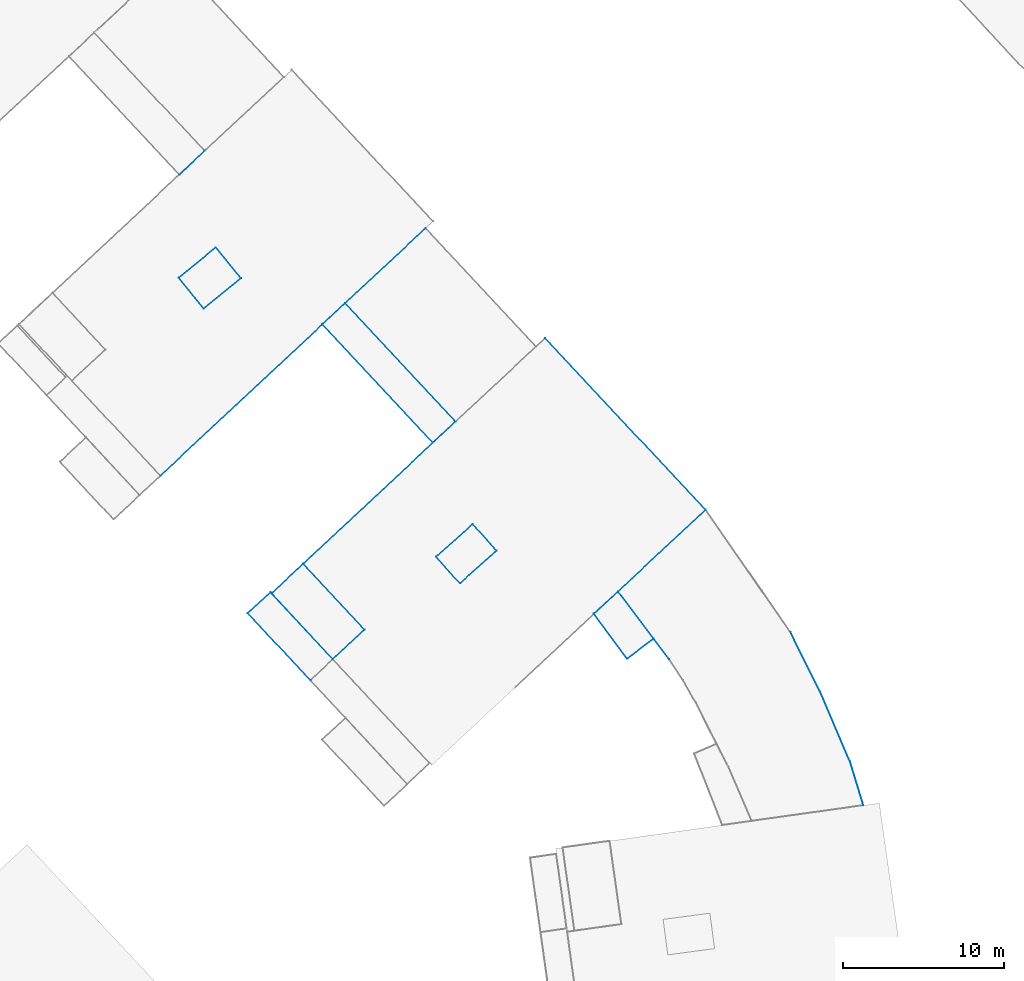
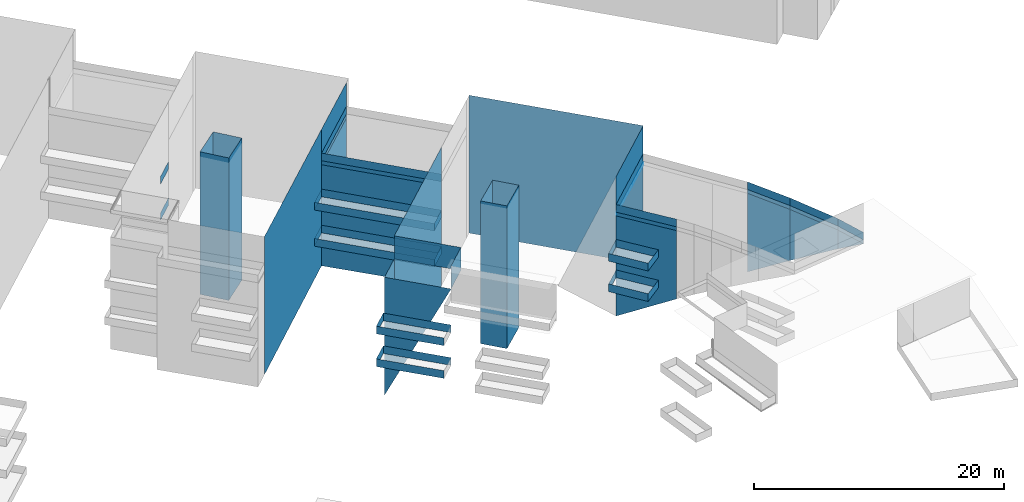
# Not in any storey, part 19 of 136: 90 walls.
"""IFC2X3 building model written with IfcOpenShell, lengths in metres."""

from ifc_helpers import new_model, entity, si_unit, converted_unit, frame, origin, place, context, subcontext, project, spatial, face_set, surface_model, element, save


model = new_model("IFC2X3")

# Units and contexts
model_context = context("Model", 3, precision=1e-05, world=origin())
body_context = subcontext(model_context, "Body", "Model", "MODEL_VIEW")
ifc_project = project(units=[converted_unit("PLANEANGLEUNIT", "DEGREE", entity("IfcRatioMeasure", 0.0174532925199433), si_unit("PLANEANGLEUNIT", "RADIAN"), dimensions=[0, 0, 0, 0, 0, 0, 0]), si_unit("AREAUNIT", "SQUARE_METRE"), si_unit("LENGTHUNIT", "METRE")], contexts=[model_context])

# Site, building
site_placement = place(None, origin())
site = spatial("IfcSite", under=ifc_project, at=site_placement, Name="_site", CompositionType="ELEMENT")
building_1_placement = place(site_placement, origin())
building_1 = spatial("IfcBuilding", under=site, at=building_1_placement, Name="_building", CompositionType="ELEMENT")

# Walls
wall_1_placement = place(building_1_placement, origin())
element("IfcWall", 1, at=wall_1_placement, inside=building_1, Name="Wall", context=body_context, shape_type="SurfaceModel", body=[
    surface_model("IfcFaceBasedSurfaceModel", [(138.73, -36.479, 45.37), (140.13, -35.18, 45.37), (140.13, -35.18, 46.12), (138.73, -36.479, 46.12)], [face_set([[[0, 1, 2, 3]]])]),
])
wall_2_placement = place(building_1_placement, origin())
element("IfcWall", 2, at=wall_2_placement, inside=building_1, Name="Wall", context=body_context, shape_type="SurfaceModel", body=[
    surface_model("IfcFaceBasedSurfaceModel", [(142.61, -40.63, 45.37), (138.73, -36.479, 45.37), (138.73, -36.479, 46.12), (142.61, -40.63, 46.12)], [face_set([[[0, 1, 2, 3]]])]),
])
wall_3_placement = place(building_1_placement, origin())
element("IfcWall", 3, at=wall_3_placement, inside=building_1, Name="Wall", context=body_context, shape_type="SurfaceModel", body=[
    surface_model("IfcFaceBasedSurfaceModel", [(138.73, -36.479, 45.37), (140.13, -35.18, 45.37), (140.13, -35.18, 46.12), (138.73, -36.479, 46.12)], [face_set([[[0, 1, 2, 3]]])]),
])
wall_4_placement = place(building_1_placement, origin())
element("IfcWall", 4, at=wall_4_placement, inside=building_1, Name="Wall", context=body_context, shape_type="SurfaceModel", body=[
    surface_model("IfcFaceBasedSurfaceModel", [(142.61, -40.63, 45.37), (138.73, -36.479, 45.37), (138.73, -36.479, 46.12), (142.61, -40.63, 46.12)], [face_set([[[0, 1, 2, 3]]])]),
])
for number, where, name in (
    (5, (0.0, 0.0, 0.0), "Wall"),
    (6, (0.0, 0.0, 0.0), "Wall"),
):
    element("IfcWall", number, at=place(building_1_placement, frame(where)), inside=building_1, Name=name, context=body_context, shape_type="SurfaceModel", body=[
        surface_model("IfcFaceBasedSurfaceModel", [(150.2, -25.91, 44.99), (143.35, -18.57, 44.99), (143.35, -18.57, 45.74), (150.2, -25.91, 45.74)], [face_set([[[0, 1, 2, 3]]])]),
    ])
wall_5_placement = place(building_1_placement, origin())
element("IfcWall", 7, at=wall_5_placement, inside=building_1, Name="Wall", context=body_context, shape_type="SurfaceModel", body=[
    surface_model("IfcFaceBasedSurfaceModel", [(151.62, -24.59, 44.99), (150.2, -25.91, 44.99), (150.2, -25.91, 45.74), (151.62, -24.59, 45.74)], [face_set([[[0, 1, 2, 3]]])]),
])
wall_6_placement = place(building_1_placement, origin())
element("IfcWall", 8, at=wall_6_placement, inside=building_1, Name="Wall", context=body_context, shape_type="SurfaceModel", body=[
    surface_model("IfcFaceBasedSurfaceModel", [(144.77, -17.25, 44.99), (151.62, -24.59, 44.99), (151.62, -24.59, 45.74), (144.77, -17.25, 45.74)], [face_set([[[0, 1, 2, 3]]])]),
])
wall_7_placement = place(building_1_placement, origin())
element("IfcWall", 9, at=wall_7_placement, inside=building_1, Name="Wall", context=body_context, shape_type="SurfaceModel", body=[
    surface_model("IfcFaceBasedSurfaceModel", [(151.62, -24.59, 48.51), (144.77, -17.25, 48.51), (144.77, -17.25, 38.246), (151.62, -24.59, 38.308)], [face_set([[[0, 1, 2, 3]]])]),
])
wall_8_placement = place(building_1_placement, origin())
element("IfcWall", 10, at=wall_8_placement, inside=building_1, Name="Wall", context=body_context, shape_type="SurfaceModel", body=[
    surface_model("IfcFaceBasedSurfaceModel", [(164.85, -39.33, 48.41), (161.68, -35.13, 48.41), (161.68, -35.13, 48.04), (164.85, -39.33, 48.04)], [face_set([[[0, 1, 2, 3]]])]),
])
for number, where, name in (
    (11, (0.0, 0.0, 0.0), "Wall"),
    (12, (0.0, 0.0, 0.0), "Wall"),
):
    element("IfcWall", number, at=place(building_1_placement, frame(where)), inside=building_1, Name=name, context=body_context, shape_type="SurfaceModel", body=[
        surface_model("IfcFaceBasedSurfaceModel", [(151.62, -24.59, 48.51), (144.77, -17.25, 48.51), (144.77, -17.25, 49.26), (151.62, -24.59, 49.26)], [face_set([[[0, 1, 2, 3]]])]),
    ])
for number, where, name in (
    (13, (0.0, 0.0, 0.0), "Wall"),
    (14, (0.0, 0.0, 0.0), "Wall"),
):
    element("IfcWall", number, at=place(building_1_placement, frame(where)), inside=building_1, Name=name, context=body_context, shape_type="SurfaceModel", body=[
        surface_model("IfcFaceBasedSurfaceModel", [(150.2, -25.91, 41.46), (143.35, -18.57, 41.46), (143.35, -18.57, 42.21), (150.2, -25.91, 42.21)], [face_set([[[0, 1, 2, 3]]])]),
    ])
wall_9_placement = place(building_1_placement, origin())
element("IfcWall", 15, at=wall_9_placement, inside=building_1, Name="Wall", context=body_context, shape_type="SurfaceModel", body=[
    surface_model("IfcFaceBasedSurfaceModel", [(151.62, -24.59, 41.46), (150.2, -25.91, 41.46), (150.2, -25.91, 42.21), (151.62, -24.59, 42.21)], [face_set([[[0, 1, 2, 3]]])]),
])
wall_10_placement = place(building_1_placement, origin())
element("IfcWall", 16, at=wall_10_placement, inside=building_1, Name="Wall", context=body_context, shape_type="SurfaceModel", body=[
    surface_model("IfcFaceBasedSurfaceModel", [(144.77, -17.25, 41.46), (151.62, -24.59, 41.46), (151.62, -24.59, 42.21), (144.77, -17.25, 42.21)], [face_set([[[0, 1, 2, 3]]])]),
])
wall_11_placement = place(building_1_placement, origin())
element("IfcWall", 17, at=wall_11_placement, inside=building_1, Name="Wall", context=body_context, shape_type="SurfaceModel", body=[
    surface_model("IfcFaceBasedSurfaceModel", [(151.62, -24.59, 48.12), (144.77, -17.25, 48.12), (144.77, -17.25, 38.246), (151.62, -24.59, 38.308)], [face_set([[[0, 1, 2, 3]]])]),
])
wall_12_placement = place(building_1_placement, origin())
element("IfcWall", 18, at=wall_12_placement, inside=building_1, Name="Wall", context=body_context, shape_type="SurfaceModel", body=[
    surface_model("IfcFaceBasedSurfaceModel", [(164.85, -39.33, 48.04), (161.68, -35.13, 48.04), (161.68, -35.13, 38.255), (164.85, -39.33, 41.367)], [face_set([[[0, 1, 2, 3]]])]),
])
wall_13_placement = place(building_1_placement, origin())
element("IfcWall", 19, at=wall_13_placement, inside=building_1, Name="Wall", context=body_context, shape_type="SurfaceModel", body=[
    surface_model("IfcFaceBasedSurfaceModel", [(144.77, -17.25, 51.59), (133.31, -27.95, 51.59), (133.31, -27.95, 38.092), (144.77, -17.25, 38.246)], [face_set([[[0, 1, 2, 3]]])]),
])
wall_14_placement = place(building_1_placement, origin())
element("IfcWall", 20, at=wall_14_placement, inside=building_1, Name="Wall", context=body_context, shape_type="SurfaceModel", body=[
    surface_model("IfcFaceBasedSurfaceModel", [(140.2, -35.25, 49.64), (142.16, -33.42, 49.64), (142.16, -33.42, 38.14), (140.2, -35.25, 38.113)], [face_set([[[0, 1, 2, 3]]])]),
])
wall_15_placement = place(building_1_placement, origin())
element("IfcWall", 21, at=wall_15_placement, inside=building_1, Name="Wall", context=body_context, shape_type="SurfaceModel", body=[
    surface_model("IfcFaceBasedSurfaceModel", [(157.17, -19.42, 51.89), (167.11, -30.07, 51.89), (167.11, -30.07, 38.37), (157.17, -19.42, 38.41)], [face_set([[[0, 1, 2, 3]]])]),
])
wall_16_placement = place(building_1_placement, origin())
element("IfcWall", 22, at=wall_16_placement, inside=building_1, Name="Wall", context=body_context, shape_type="SurfaceModel", body=[
    surface_model("IfcFaceBasedSurfaceModel", [(142.16, -33.42, 51.89), (151.62, -24.59, 51.89), (151.62, -24.59, 38.308), (142.16, -33.42, 38.14)], [face_set([[[0, 1, 2, 3]]])]),
])
for number, where, name in (
    (23, (0.0, 0.0, 0.0), "Wall"),
    (24, (0.0, 0.0, 0.0), "Wall"),
):
    element("IfcWall", number, at=place(building_1_placement, frame(where)), inside=building_1, Name=name, context=body_context, shape_type="SurfaceModel", body=[
        surface_model("IfcFaceBasedSurfaceModel", [(164.85, -39.33, 48.41), (161.68, -35.13, 48.41), (161.68, -35.13, 49.16), (164.85, -39.33, 49.16)], [face_set([[[0, 1, 2, 3]]])]),
    ])
wall_17_placement = place(building_1_placement, origin())
element("IfcWall", 25, at=wall_17_placement, inside=building_1, Name="Wall", context=body_context, shape_type="SurfaceModel", body=[
    surface_model("IfcFaceBasedSurfaceModel", [(162.24, -39.3, 44.99), (160.18, -36.52, 44.99), (160.18, -36.52, 45.74), (162.24, -39.3, 45.74)], [face_set([[[0, 1, 2, 3]]])]),
])
wall_18_placement = place(building_1_placement, origin())
element("IfcWall", 26, at=wall_18_placement, inside=building_1, Name="Wall", context=body_context, shape_type="SurfaceModel", body=[
    surface_model("IfcFaceBasedSurfaceModel", [(163.89, -38.06, 44.99), (162.24, -39.3, 44.99), (162.24, -39.3, 45.74), (163.89, -38.06, 45.74)], [face_set([[[0, 1, 2, 3]]])]),
])
wall_19_placement = place(building_1_placement, origin())
element("IfcWall", 27, at=wall_19_placement, inside=building_1, Name="Wall", context=body_context, shape_type="SurfaceModel", body=[
    surface_model("IfcFaceBasedSurfaceModel", [(162.24, -39.3, 44.99), (160.18, -36.52, 44.99), (160.18, -36.52, 45.74), (162.24, -39.3, 45.74)], [face_set([[[0, 1, 2, 3]]])]),
])
wall_20_placement = place(building_1_placement, origin())
element("IfcWall", 28, at=wall_20_placement, inside=building_1, Name="Wall", context=body_context, shape_type="SurfaceModel", body=[
    surface_model("IfcFaceBasedSurfaceModel", [(163.89, -38.06, 44.99), (162.24, -39.3, 44.99), (162.24, -39.3, 45.74), (163.89, -38.06, 45.74)], [face_set([[[0, 1, 2, 3]]])]),
])
wall_21_placement = place(building_1_placement, origin())
element("IfcWall", 29, at=wall_21_placement, inside=building_1, Name="Wall", context=body_context, shape_type="SurfaceModel", body=[
    surface_model("IfcFaceBasedSurfaceModel", [(161.68, -35.13, 44.99), (163.89, -38.06, 44.99), (163.89, -38.06, 45.74), (161.68, -35.13, 45.74)], [face_set([[[0, 1, 2, 3]]])]),
])
wall_22_placement = place(building_1_placement, origin())
element("IfcWall", 30, at=wall_22_placement, inside=building_1, Name="Wall", context=body_context, shape_type="SurfaceModel", body=[
    surface_model("IfcFaceBasedSurfaceModel", [(138.73, -36.479, 42.17), (140.13, -35.18, 42.17), (140.13, -35.18, 42.92), (138.73, -36.479, 42.92)], [face_set([[[0, 1, 2, 3]]])]),
])
wall_23_placement = place(building_1_placement, origin())
element("IfcWall", 31, at=wall_23_placement, inside=building_1, Name="Wall", context=body_context, shape_type="SurfaceModel", body=[
    surface_model("IfcFaceBasedSurfaceModel", [(142.61, -40.63, 42.17), (138.73, -36.479, 42.17), (138.73, -36.479, 42.92), (142.61, -40.63, 42.92)], [face_set([[[0, 1, 2, 3]]])]),
])
wall_24_placement = place(building_1_placement, origin())
element("IfcWall", 32, at=wall_24_placement, inside=building_1, Name="Wall", context=body_context, shape_type="SurfaceModel", body=[
    surface_model("IfcFaceBasedSurfaceModel", [(138.73, -36.479, 42.17), (140.13, -35.18, 42.17), (140.13, -35.18, 42.92), (138.73, -36.479, 42.92)], [face_set([[[0, 1, 2, 3]]])]),
])
wall_25_placement = place(building_1_placement, origin())
element("IfcWall", 33, at=wall_25_placement, inside=building_1, Name="Wall", context=body_context, shape_type="SurfaceModel", body=[
    surface_model("IfcFaceBasedSurfaceModel", [(142.61, -40.63, 42.17), (138.73, -36.479, 42.17), (138.73, -36.479, 42.92), (142.61, -40.63, 42.92)], [face_set([[[0, 1, 2, 3]]])]),
])
wall_26_placement = place(building_1_placement, origin())
element("IfcWall", 34, at=wall_26_placement, inside=building_1, Name="Wall", context=body_context, shape_type="SurfaceModel", body=[
    surface_model("IfcFaceBasedSurfaceModel", [(162.24, -39.3, 42.01), (160.18, -36.52, 42.01), (160.18, -36.52, 42.76), (162.24, -39.3, 42.76)], [face_set([[[0, 1, 2, 3]]])]),
])
wall_27_placement = place(building_1_placement, origin())
element("IfcWall", 35, at=wall_27_placement, inside=building_1, Name="Wall", context=body_context, shape_type="SurfaceModel", body=[
    surface_model("IfcFaceBasedSurfaceModel", [(163.89, -38.06, 42.01), (162.24, -39.3, 42.01), (162.24, -39.3, 42.76), (163.89, -38.06, 42.76)], [face_set([[[0, 1, 2, 3]]])]),
])
wall_28_placement = place(building_1_placement, origin())
element("IfcWall", 36, at=wall_28_placement, inside=building_1, Name="Wall", context=body_context, shape_type="SurfaceModel", body=[
    surface_model("IfcFaceBasedSurfaceModel", [(162.24, -39.3, 42.01), (160.18, -36.52, 42.01), (160.18, -36.52, 42.76), (162.24, -39.3, 42.76)], [face_set([[[0, 1, 2, 3]]])]),
])
wall_29_placement = place(building_1_placement, origin())
element("IfcWall", 37, at=wall_29_placement, inside=building_1, Name="Wall", context=body_context, shape_type="SurfaceModel", body=[
    surface_model("IfcFaceBasedSurfaceModel", [(163.89, -38.06, 42.01), (162.24, -39.3, 42.01), (162.24, -39.3, 42.76), (163.89, -38.06, 42.76)], [face_set([[[0, 1, 2, 3]]])]),
])
wall_30_placement = place(building_1_placement, origin())
element("IfcWall", 38, at=wall_30_placement, inside=building_1, Name="Wall", context=body_context, shape_type="SurfaceModel", body=[
    surface_model("IfcFaceBasedSurfaceModel", [(161.68, -35.13, 42.01), (163.89, -38.06, 42.01), (163.89, -38.06, 42.76), (161.68, -35.13, 42.76)], [face_set([[[0, 1, 2, 3]]])]),
])

# Building
building_2_placement = place(site_placement, origin())
building_2 = spatial("IfcBuilding", under=site, at=building_2_placement, Name="_building", CompositionType="ELEMENT")

# Walls
wall_31_placement = place(building_2_placement, origin())
element("IfcWall", 39, at=wall_31_placement, inside=building_2, Name="Wall", context=body_context, shape_type="SurfaceModel", body=[
    surface_model("IfcFaceBasedSurfaceModel", [(151.62, -24.59, 44.99), (150.2, -25.91, 44.99), (150.2, -25.91, 45.74), (151.62, -24.59, 45.74)], [face_set([[[0, 1, 2, 3]]])]),
])
wall_32_placement = place(building_2_placement, origin())
element("IfcWall", 40, at=wall_32_placement, inside=building_2, Name="Wall", context=body_context, shape_type="SurfaceModel", body=[
    surface_model("IfcFaceBasedSurfaceModel", [(150.4, -32.979, 52.15), (152.68, -30.95, 52.15), (152.68, -30.95, 38.244), (150.4, -32.979, 38.204)], [face_set([[[0, 1, 2, 3]]])]),
])
wall_33_placement = place(building_2_placement, origin())
element("IfcWall", 41, at=wall_33_placement, inside=building_2, Name="Wall", context=body_context, shape_type="SurfaceModel", body=[
    surface_model("IfcFaceBasedSurfaceModel", [(176.07, -45.7, 48.41), (176.89, -48.39, 48.41), (176.89, -48.39, 48.04), (176.07, -45.7, 48.04)], [face_set([[[0, 1, 2, 3]]])]),
])
wall_34_placement = place(building_2_placement, origin())
element("IfcWall", 42, at=wall_34_placement, inside=building_2, Name="Wall", context=body_context, shape_type="SurfaceModel", body=[
    surface_model("IfcFaceBasedSurfaceModel", [(172.37, -37.66, 48.41), (174.2, -41.33, 48.41), (174.2, -41.33, 48.04), (172.37, -37.66, 48.04)], [face_set([[[0, 1, 2, 3]]])]),
])
wall_35_placement = place(building_2_placement, origin())
element("IfcWall", 43, at=wall_35_placement, inside=building_2, Name="Wall", context=body_context, shape_type="SurfaceModel", body=[
    surface_model("IfcFaceBasedSurfaceModel", [(161.68, -35.13, 48.41), (167.11, -30.07, 48.41), (167.11, -30.07, 48.04), (161.68, -35.13, 48.04)], [face_set([[[0, 1, 2, 3]]])]),
])
wall_36_placement = place(building_2_placement, origin())
element("IfcWall", 44, at=wall_36_placement, inside=building_2, Name="Wall", context=body_context, shape_type="SurfaceModel", body=[
    surface_model("IfcFaceBasedSurfaceModel", [(151.88, -34.63, 52.15), (150.4, -32.979, 52.15), (150.4, -32.979, 38.204), (151.88, -34.63, 38.194)], [face_set([[[0, 1, 2, 3]]])]),
])
wall_37_placement = place(building_2_placement, origin())
element("IfcWall", 45, at=wall_37_placement, inside=building_2, Name="Wall", context=body_context, shape_type="SurfaceModel", body=[
    surface_model("IfcFaceBasedSurfaceModel", [(154.15, -32.6, 52.15), (151.88, -34.63, 52.15), (151.88, -34.63, 38.194), (154.15, -32.6, 38.233)], [face_set([[[0, 1, 2, 3]]])]),
])
wall_38_placement = place(building_2_placement, origin())
element("IfcWall", 46, at=wall_38_placement, inside=building_2, Name="Wall", context=body_context, shape_type="SurfaceModel", body=[
    surface_model("IfcFaceBasedSurfaceModel", [(152.68, -30.95, 52.15), (154.15, -32.6, 52.15), (154.15, -32.6, 38.233), (152.68, -30.95, 38.244)], [face_set([[[0, 1, 2, 3]]])]),
])
wall_39_placement = place(building_2_placement, origin())
element("IfcWall", 47, at=wall_39_placement, inside=building_2, Name="Wall", context=body_context, shape_type="SurfaceModel", body=[
    surface_model("IfcFaceBasedSurfaceModel", [(151.62, -24.59, 41.46), (150.2, -25.91, 41.46), (150.2, -25.91, 42.21), (151.62, -24.59, 42.21)], [face_set([[[0, 1, 2, 3]]])]),
])
wall_40_placement = place(building_2_placement, origin())
element("IfcWall", 48, at=wall_40_placement, inside=building_2, Name="Wall", context=body_context, shape_type="SurfaceModel", body=[
    surface_model("IfcFaceBasedSurfaceModel", [(176.07, -45.7, 48.04), (176.89, -48.39, 48.04), (176.07, -45.7, 46.19)], [face_set([[[0, 1, 2]]])]),
])
wall_41_placement = place(building_2_placement, origin())
element("IfcWall", 49, at=wall_41_placement, inside=building_2, Name="Wall", context=body_context, shape_type="SurfaceModel", body=[
    surface_model("IfcFaceBasedSurfaceModel", [(174.2, -41.33, 48.04), (176.07, -45.7, 48.04), (176.07, -45.7, 46.19), (174.2, -41.33, 43.062)], [face_set([[[0, 1, 2, 3]]])]),
])
wall_42_placement = place(building_2_placement, origin())
element("IfcWall", 50, at=wall_42_placement, inside=building_2, Name="Wall", context=body_context, shape_type="SurfaceModel", body=[
    surface_model("IfcFaceBasedSurfaceModel", [(172.37, -37.66, 48.04), (174.2, -41.33, 48.04), (174.2, -41.33, 43.062), (172.37, -37.66, 40.363)], [face_set([[[0, 1, 2, 3]]])]),
])
wall_43_placement = place(building_2_placement, origin())
element("IfcWall", 51, at=wall_43_placement, inside=building_2, Name="Wall", context=body_context, shape_type="SurfaceModel", body=[
    surface_model("IfcFaceBasedSurfaceModel", [(174.2, -41.33, 48.41), (176.07, -45.7, 48.41), (176.07, -45.7, 48.04), (174.2, -41.33, 48.04)], [face_set([[[0, 1, 2, 3]]])]),
])
wall_44_placement = place(building_2_placement, origin())
element("IfcWall", 52, at=wall_44_placement, inside=building_2, Name="Wall", context=body_context, shape_type="SurfaceModel", body=[
    surface_model("IfcFaceBasedSurfaceModel", [(145.97, -37.49, 51.89), (142.16, -33.42, 51.89), (142.16, -33.42, 49.64), (145.97, -37.49, 49.64)], [face_set([[[0, 1, 2, 3]]])]),
])
wall_45_placement = place(building_2_placement, origin())
element("IfcWall", 53, at=wall_45_placement, inside=building_2, Name="Wall", context=body_context, shape_type="SurfaceModel", body=[
    surface_model("IfcFaceBasedSurfaceModel", [(144.0, -39.33, 51.89), (145.97, -37.49, 51.89), (145.97, -37.49, 49.64), (144.0, -39.33, 49.64)], [face_set([[[0, 1, 2, 3]]])]),
])
wall_46_placement = place(building_2_placement, origin())
element("IfcWall", 54, at=wall_46_placement, inside=building_2, Name="Wall", context=body_context, shape_type="SurfaceModel", body=[
    surface_model("IfcFaceBasedSurfaceModel", [(167.11, -30.07, 51.89), (161.68, -35.13, 51.89), (161.68, -35.13, 48.04), (167.11, -30.07, 48.04)], [face_set([[[0, 1, 2, 3]]])]),
])
wall_47_placement = place(building_2_placement, origin())
element("IfcWall", 55, at=wall_47_placement, inside=building_2, Name="Wall", context=body_context, shape_type="SurfaceModel", body=[
    surface_model("IfcFaceBasedSurfaceModel", [(176.07, -45.7, 48.41), (176.89, -48.39, 48.41), (176.89, -48.39, 49.16), (176.07, -45.7, 49.16)], [face_set([[[0, 1, 2, 3]]])]),
])
wall_48_placement = place(building_2_placement, origin())
element("IfcWall", 56, at=wall_48_placement, inside=building_2, Name="Wall", context=body_context, shape_type="SurfaceModel", body=[
    surface_model("IfcFaceBasedSurfaceModel", [(174.2, -41.33, 48.41), (176.07, -45.7, 48.41), (176.07, -45.7, 49.16), (174.2, -41.33, 49.16)], [face_set([[[0, 1, 2, 3]]])]),
])
wall_49_placement = place(building_2_placement, origin())
element("IfcWall", 57, at=wall_49_placement, inside=building_2, Name="Wall", context=body_context, shape_type="SurfaceModel", body=[
    surface_model("IfcFaceBasedSurfaceModel", [(172.37, -37.66, 48.41), (174.2, -41.33, 48.41), (174.2, -41.33, 49.16), (172.37, -37.66, 49.16)], [face_set([[[0, 1, 2, 3]]])]),
])
wall_50_placement = place(building_2_placement, origin())
element("IfcWall", 58, at=wall_50_placement, inside=building_2, Name="Wall", context=body_context, shape_type="SurfaceModel", body=[
    surface_model("IfcFaceBasedSurfaceModel", [(161.68, -35.13, 48.41), (167.11, -30.07, 48.41), (167.11, -30.07, 49.16), (161.68, -35.13, 49.16)], [face_set([[[0, 1, 2, 3]]])]),
])
wall_51_placement = place(building_2_placement, origin())
element("IfcWall", 59, at=wall_51_placement, inside=building_2, Name="Wall", context=body_context, shape_type="SurfaceModel", body=[
    surface_model("IfcFaceBasedSurfaceModel", [(176.07, -45.7, 48.41), (176.89, -48.39, 48.41), (176.89, -48.39, 49.16), (176.07, -45.7, 49.16)], [face_set([[[0, 1, 2, 3]]])]),
])
wall_52_placement = place(building_2_placement, origin())
element("IfcWall", 60, at=wall_52_placement, inside=building_2, Name="Wall", context=body_context, shape_type="SurfaceModel", body=[
    surface_model("IfcFaceBasedSurfaceModel", [(174.2, -41.33, 48.41), (176.07, -45.7, 48.41), (176.07, -45.7, 49.16), (174.2, -41.33, 49.16)], [face_set([[[0, 1, 2, 3]]])]),
])
wall_53_placement = place(building_2_placement, origin())
element("IfcWall", 61, at=wall_53_placement, inside=building_2, Name="Wall", context=body_context, shape_type="SurfaceModel", body=[
    surface_model("IfcFaceBasedSurfaceModel", [(172.37, -37.66, 48.41), (174.2, -41.33, 48.41), (174.2, -41.33, 49.16), (172.37, -37.66, 49.16)], [face_set([[[0, 1, 2, 3]]])]),
])
wall_54_placement = place(building_2_placement, origin())
element("IfcWall", 62, at=wall_54_placement, inside=building_2, Name="Wall", context=body_context, shape_type="SurfaceModel", body=[
    surface_model("IfcFaceBasedSurfaceModel", [(161.68, -35.13, 48.41), (167.11, -30.07, 48.41), (167.11, -30.07, 49.16), (161.68, -35.13, 49.16)], [face_set([[[0, 1, 2, 3]]])]),
])
wall_55_placement = place(building_2_placement, origin())
element("IfcWall", 63, at=wall_55_placement, inside=building_2, Name="Wall", context=body_context, shape_type="SurfaceModel", body=[
    surface_model("IfcFaceBasedSurfaceModel", [(160.18, -36.52, 44.99), (161.68, -35.13, 44.99), (161.68, -35.13, 45.74), (160.18, -36.52, 45.74)], [face_set([[[0, 1, 2, 3]]])]),
])
wall_56_placement = place(building_2_placement, origin())
element("IfcWall", 64, at=wall_56_placement, inside=building_2, Name="Wall", context=body_context, shape_type="SurfaceModel", body=[
    surface_model("IfcFaceBasedSurfaceModel", [(161.68, -35.13, 44.99), (163.89, -38.06, 44.99), (163.89, -38.06, 45.74), (161.68, -35.13, 45.74)], [face_set([[[0, 1, 2, 3]]])]),
])
wall_57_placement = place(building_2_placement, origin())
element("IfcWall", 65, at=wall_57_placement, inside=building_2, Name="Wall", context=body_context, shape_type="SurfaceModel", body=[
    surface_model("IfcFaceBasedSurfaceModel", [(160.18, -36.52, 44.99), (161.68, -35.13, 44.99), (161.68, -35.13, 45.74), (160.18, -36.52, 45.74)], [face_set([[[0, 1, 2, 3]]])]),
])
wall_58_placement = place(building_2_placement, origin())
element("IfcWall", 66, at=wall_58_placement, inside=building_2, Name="Wall", context=body_context, shape_type="SurfaceModel", body=[
    surface_model("IfcFaceBasedSurfaceModel", [(160.18, -36.52, 42.01), (161.68, -35.13, 42.01), (161.68, -35.13, 42.76), (160.18, -36.52, 42.76)], [face_set([[[0, 1, 2, 3]]])]),
])
wall_59_placement = place(building_2_placement, origin())
element("IfcWall", 67, at=wall_59_placement, inside=building_2, Name="Wall", context=body_context, shape_type="SurfaceModel", body=[
    surface_model("IfcFaceBasedSurfaceModel", [(161.68, -35.13, 42.01), (163.89, -38.06, 42.01), (163.89, -38.06, 42.76), (161.68, -35.13, 42.76)], [face_set([[[0, 1, 2, 3]]])]),
])
wall_60_placement = place(building_2_placement, origin())
element("IfcWall", 68, at=wall_60_placement, inside=building_2, Name="Wall", context=body_context, shape_type="SurfaceModel", body=[
    surface_model("IfcFaceBasedSurfaceModel", [(160.18, -36.52, 42.01), (161.68, -35.13, 42.01), (161.68, -35.13, 42.76), (160.18, -36.52, 42.76)], [face_set([[[0, 1, 2, 3]]])]),
])

# Building
building_3_placement = place(site_placement, origin())
building_3 = spatial("IfcBuilding", under=site, at=building_3_placement, Name="_building", CompositionType="ELEMENT")

# Walls
for number, where, name in (
    (69, (0.0, 0.0, 0.0), "Wall"),
    (70, (0.0, 0.0, 0.0), "Wall"),
):
    element("IfcWall", number, at=place(building_3_placement, frame(where)), inside=building_3, Name=name, context=body_context, shape_type="SurfaceModel", body=[
        surface_model("IfcFaceBasedSurfaceModel", [(140.13, -35.18, 45.37), (144.0, -39.33, 45.37), (144.0, -39.33, 46.12), (140.13, -35.18, 46.12)], [face_set([[[0, 1, 2, 3]]])]),
    ])
wall_61_placement = place(building_3_placement, origin())
element("IfcWall", 71, at=wall_61_placement, inside=building_3, Name="Wall", context=body_context, shape_type="SurfaceModel", body=[
    surface_model("IfcFaceBasedSurfaceModel", [(144.0, -39.33, 49.64), (140.2, -35.25, 49.64), (140.2, -35.25, 38.113)], [face_set([[[0, 1, 2]]])]),
])
wall_62_placement = place(building_3_placement, origin())
element("IfcWall", 72, at=wall_62_placement, inside=building_3, Name="Wall", context=body_context, shape_type="SurfaceModel", body=[
    surface_model("IfcFaceBasedSurfaceModel", [(140.13, -35.18, 42.17), (144.0, -39.33, 42.17), (144.0, -39.33, 42.92), (140.13, -35.18, 42.92)], [face_set([[[0, 1, 2, 3]]])]),
])

# Building
building_4_placement = place(site_placement, origin())
building_4 = spatial("IfcBuilding", under=site, at=building_4_placement, Name="_building", CompositionType="ELEMENT")

# Walls
wall_63_placement = place(building_4_placement, origin())
element("IfcWall", 73, at=wall_63_placement, inside=building_4, Name="Wall", context=body_context, shape_type="SurfaceModel", body=[
    surface_model("IfcFaceBasedSurfaceModel", [(143.35, -18.57, 44.99), (144.77, -17.25, 44.99), (144.77, -17.25, 45.74), (143.35, -18.57, 45.74)], [face_set([[[0, 1, 2, 3]]])]),
])
wall_64_placement = place(building_4_placement, origin())
element("IfcWall", 74, at=wall_64_placement, inside=building_4, Name="Wall", context=body_context, shape_type="SurfaceModel", body=[
    surface_model("IfcFaceBasedSurfaceModel", [(144.77, -17.25, 44.99), (151.62, -24.59, 44.99), (151.62, -24.59, 45.74), (144.77, -17.25, 45.74)], [face_set([[[0, 1, 2, 3]]])]),
])
wall_65_placement = place(building_4_placement, origin())
element("IfcWall", 75, at=wall_65_placement, inside=building_4, Name="Wall", context=body_context, shape_type="SurfaceModel", body=[
    surface_model("IfcFaceBasedSurfaceModel", [(143.35, -18.57, 44.99), (144.77, -17.25, 44.99), (144.77, -17.25, 45.74), (143.35, -18.57, 45.74)], [face_set([[[0, 1, 2, 3]]])]),
])
for number, where, name in (
    (76, (0.0, 0.0, 0.0), "Wall"),
    (77, (0.0, 0.0, 0.0), "Wall"),
):
    element("IfcWall", number, at=place(building_4_placement, frame(where)), inside=building_4, Name=name, context=body_context, shape_type="SurfaceModel", body=[
        surface_model("IfcFaceBasedSurfaceModel", [(136.06, -7.81, 44.99), (134.49, -9.28, 44.99), (134.49, -9.28, 45.74), (136.06, -7.81, 45.74)], [face_set([[[0, 1, 2, 3]]])]),
    ])
wall_66_placement = place(building_4_placement, origin())
element("IfcWall", 78, at=wall_66_placement, inside=building_4, Name="Wall", context=body_context, shape_type="SurfaceModel", body=[
    surface_model("IfcFaceBasedSurfaceModel", [(144.77, -17.25, 48.51), (149.76, -12.6, 48.51), (149.76, -12.6, 38.34), (144.77, -17.25, 38.246)], [face_set([[[0, 1, 2, 3]]])]),
])
for number, where, name in (
    (79, (0.0, 0.0, 0.0), "Wall"),
    (80, (0.0, 0.0, 0.0), "Wall"),
):
    element("IfcWall", number, at=place(building_4_placement, frame(where)), inside=building_4, Name=name, context=body_context, shape_type="SurfaceModel", body=[
        surface_model("IfcFaceBasedSurfaceModel", [(144.77, -17.25, 48.51), (149.76, -12.6, 48.51), (149.76, -12.6, 49.26), (144.77, -17.25, 49.26)], [face_set([[[0, 1, 2, 3]]])]),
    ])
wall_67_placement = place(building_4_placement, origin())
element("IfcWall", 81, at=wall_67_placement, inside=building_4, Name="Wall", context=body_context, shape_type="SurfaceModel", body=[
    surface_model("IfcFaceBasedSurfaceModel", [(134.44, -15.689, 52.06), (136.74, -13.8, 52.06), (136.74, -13.8, 38.142), (134.44, -15.689, 38.121)], [face_set([[[0, 1, 2, 3]]])]),
])
wall_68_placement = place(building_4_placement, origin())
element("IfcWall", 82, at=wall_68_placement, inside=building_4, Name="Wall", context=body_context, shape_type="SurfaceModel", body=[
    surface_model("IfcFaceBasedSurfaceModel", [(136.0, -17.59, 52.06), (134.44, -15.689, 52.06), (134.44, -15.689, 38.121), (136.0, -17.59, 38.128)], [face_set([[[0, 1, 2, 3]]])]),
])
wall_69_placement = place(building_4_placement, origin())
element("IfcWall", 83, at=wall_69_placement, inside=building_4, Name="Wall", context=body_context, shape_type="SurfaceModel", body=[
    surface_model("IfcFaceBasedSurfaceModel", [(138.3, -15.7, 52.06), (136.0, -17.59, 52.06), (136.0, -17.59, 38.128), (138.3, -15.7, 38.163)], [face_set([[[0, 1, 2, 3]]])]),
])
wall_70_placement = place(building_4_placement, origin())
element("IfcWall", 84, at=wall_70_placement, inside=building_4, Name="Wall", context=body_context, shape_type="SurfaceModel", body=[
    surface_model("IfcFaceBasedSurfaceModel", [(136.74, -13.8, 52.06), (138.3, -15.7, 52.06), (138.3, -15.7, 38.163), (136.74, -13.8, 38.142)], [face_set([[[0, 1, 2, 3]]])]),
])
wall_71_placement = place(building_4_placement, origin())
element("IfcWall", 85, at=wall_71_placement, inside=building_4, Name="Wall", context=body_context, shape_type="SurfaceModel", body=[
    surface_model("IfcFaceBasedSurfaceModel", [(143.35, -18.57, 41.46), (144.77, -17.25, 41.46), (144.77, -17.25, 42.21), (143.35, -18.57, 42.21)], [face_set([[[0, 1, 2, 3]]])]),
])
wall_72_placement = place(building_4_placement, origin())
element("IfcWall", 86, at=wall_72_placement, inside=building_4, Name="Wall", context=body_context, shape_type="SurfaceModel", body=[
    surface_model("IfcFaceBasedSurfaceModel", [(144.77, -17.25, 41.46), (151.62, -24.59, 41.46), (151.62, -24.59, 42.21), (144.77, -17.25, 42.21)], [face_set([[[0, 1, 2, 3]]])]),
])
wall_73_placement = place(building_4_placement, origin())
element("IfcWall", 87, at=wall_73_placement, inside=building_4, Name="Wall", context=body_context, shape_type="SurfaceModel", body=[
    surface_model("IfcFaceBasedSurfaceModel", [(143.35, -18.57, 41.46), (144.77, -17.25, 41.46), (144.77, -17.25, 42.21), (143.35, -18.57, 42.21)], [face_set([[[0, 1, 2, 3]]])]),
])
wall_74_placement = place(building_4_placement, origin())
element("IfcWall", 88, at=wall_74_placement, inside=building_4, Name="Wall", context=body_context, shape_type="SurfaceModel", body=[
    surface_model("IfcFaceBasedSurfaceModel", [(149.76, -12.6, 51.59), (144.77, -17.25, 51.59), (144.77, -17.25, 48.12), (149.76, -12.6, 48.12)], [face_set([[[0, 1, 2, 3]]])]),
])
for number, where, name in (
    (89, (0.0, 0.0, 0.0), "Wall"),
    (90, (0.0, 0.0, 0.0), "Wall"),
):
    element("IfcWall", number, at=place(building_4_placement, frame(where)), inside=building_4, Name=name, context=body_context, shape_type="SurfaceModel", body=[
        surface_model("IfcFaceBasedSurfaceModel", [(136.06, -7.81, 41.46), (134.49, -9.28, 41.46), (134.49, -9.28, 42.21), (136.06, -7.81, 42.21)], [face_set([[[0, 1, 2, 3]]])]),
    ])

save(model, "model.ifc")
